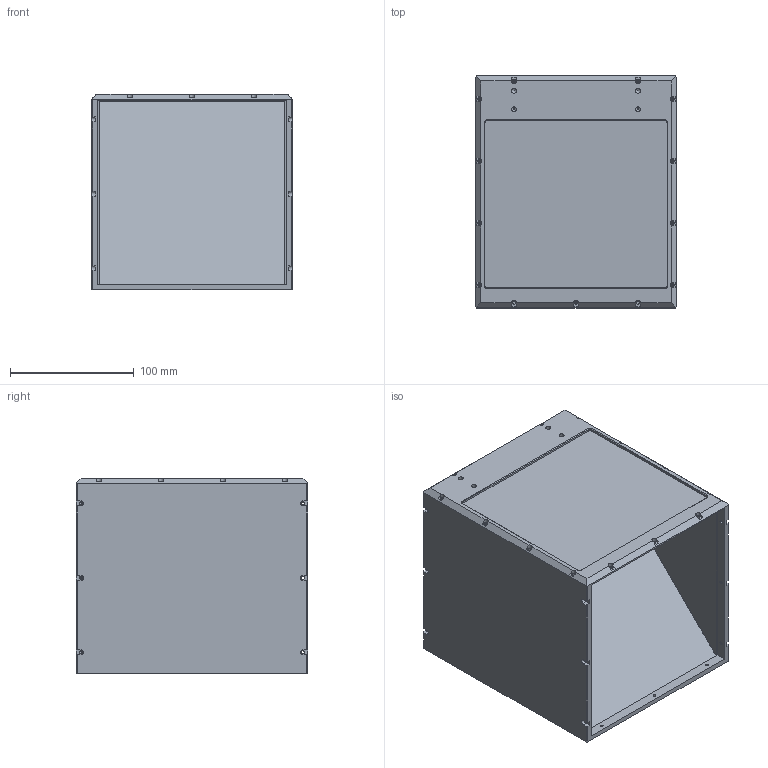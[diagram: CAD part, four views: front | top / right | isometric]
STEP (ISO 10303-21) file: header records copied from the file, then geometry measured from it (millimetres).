
FILE_DESCRIPTION((''),'2;1');
FILE_NAME('D:\上海创波-20181114\2-三维图纸\1-常用光源\WLFV系列\WLFVB-150-.stp','2020-02-05T20:02:55',('Administrator'),(''),'Autodesk Inventor 2010','Autodesk Inventor 2010','');
FILE_SCHEMA(('AUTOMOTIVE_DESIGN { 1 0 10303 214 1 1 1 1 }'));
Length unit declared in the file: millimetre
Products named in the file (1): 零件6
Bounding box: 162 x 187 x 158 mm (x, y, z)
Volume: 645398.3 mm3; surface area: 369603.9 mm2
Topology: 3 solids, 3 shells, 487 faces, 1256 edges, 823 vertices
Faces by surface type: plane 264, bspline 199, cylinder 14, cone 10
Full cylindrical faces by diameter (mm): 2 x6
Entity records: 15818 total; most frequent: CARTESIAN_POINT 4950, ORIENTED_EDGE 2072, DIRECTION 1885, EDGE_CURVE 1036, VECTOR 763, LINE 763, VERTEX_POINT 737, EDGE_LOOP 701
